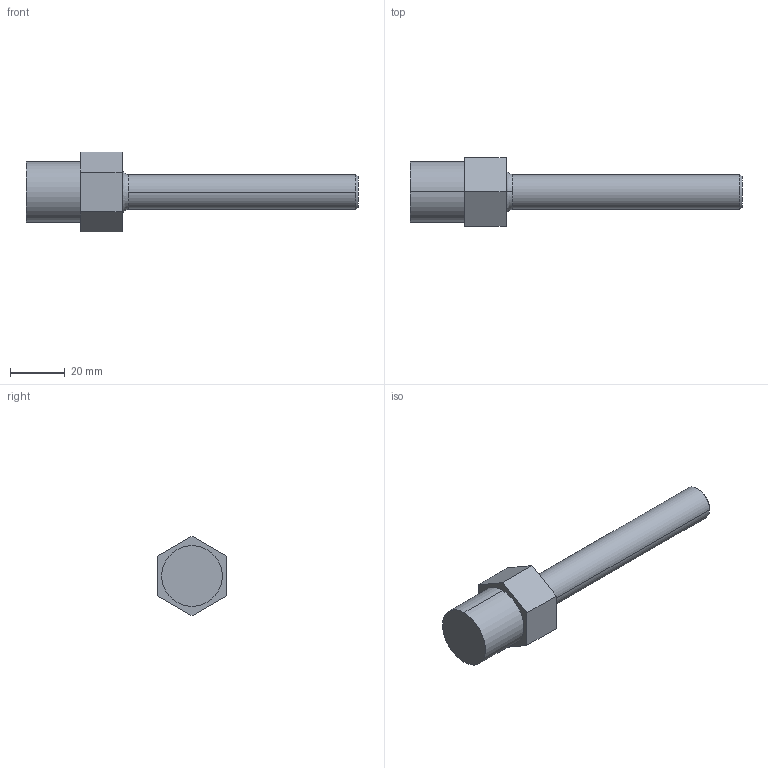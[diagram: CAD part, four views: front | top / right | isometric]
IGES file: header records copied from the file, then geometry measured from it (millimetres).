
Start section: SolidWorks IGES file using analytic representation for surfaces
Global section: file name: S:\Product Visuals\FILES FOR PUBLICATION\SOLID MODELS FOR PUBLICATION\30\5\front-straight-outlet\6\t-(tubeout)\7\fitting-tubeout-08.IGS; native system: SolidWorks 2012; preprocessor: SolidWorks 2012; author: rachel.dressel; date: 121113.085352; units: inch
Bounding box: 121.72 x 25.25 x 29.16 mm (x, y, z)
Volume: 27170.2 mm3; surface area: 7227 mm2
Topology: 1 solids, 1 shells, 18 faces, 40 edges, 26 vertices
Faces by surface type: plane 10, revolution 6, bspline 2
